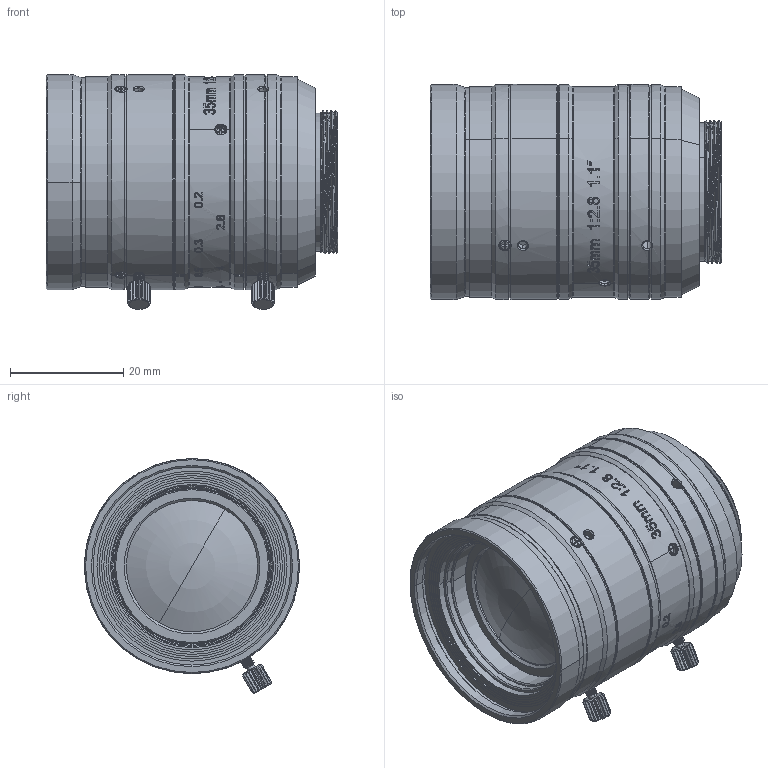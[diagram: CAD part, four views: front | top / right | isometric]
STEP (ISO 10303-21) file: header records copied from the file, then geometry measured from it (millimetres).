
FILE_DESCRIPTION((''),'2;1');
FILE_NAME('KF35MM-12MPE_ASM','2020-11-26T11:39:32',('dihaoping'),(''),'CREO PARAMETRIC BY PTC INC, 2017260','CREO PARAMETRIC BY PTC INC, 2017260','');
FILE_SCHEMA(('CONFIG_CONTROL_DESIGN'));
Length unit declared in the file: millimetre
Products named in the file (23): MSBR-71; MSBR-70_1_2; MSBR-69_1_2; MSBR-68; MSBR-67; MSBR-57; MSBR-56; MSBR-55; MSBR-54; MSBR-21_1; MSBR-20_1_2_3_4; MSBR-15_1_2_3_4; MSBR-14_1_2_3; MSBR-13_1_2_3; MSBR-12_1_2_3; MSBR-11_1; MSBR-6_1_2; MSBR-5_1_2_3_4_5_6; MSBR-4_1_2_3_4_5_6; MSBR-2_1_2_3_4_5_6; MSBR-1_1; KF35MM-12MPE_ASM_ASM_ASM; KF35MM-12MPE_ASM
Assembly tree (22 placements, depth 3):
  KF35MM-12MPE_ASM
    KF35MM-12MPE_ASM_ASM_ASM
      MSBR-71
      MSBR-70_1_2
      MSBR-69_1_2
      MSBR-68
      MSBR-67
      MSBR-57
      MSBR-56
      MSBR-55
      MSBR-54
      MSBR-21_1
      MSBR-20_1_2_3_4
      MSBR-15_1_2_3_4
      MSBR-14_1_2_3
      MSBR-13_1_2_3
      MSBR-12_1_2_3
      MSBR-11_1
      MSBR-6_1_2
      MSBR-5_1_2_3_4_5_6
      MSBR-4_1_2_3_4_5_6
      MSBR-2_1_2_3_4_5_6
      MSBR-1_1
Bounding box: 51.58 x 38 x 41.5 mm (x, y, z)
Volume: 24300.8 mm3; surface area: 29118.1 mm2
Topology: 20 solids, 22 shells, 2327 faces, 6350 edges, 4190 vertices
Faces by surface type: bspline 993, plane 561, cylinder 443, cone 269, torus 32, extrusion 21, sphere 8
Entity records: 128511 total; most frequent: CARTESIAN_POINT 75741, ORIENTED_EDGE 12675, DIRECTION 7949, EDGE_CURVE 6342, VERTEX_POINT 4190, AXIS2_PLACEMENT_3D 2805, B_SPLINE_CURVE_WITH_KNOTS 2619, EDGE_LOOP 2522
